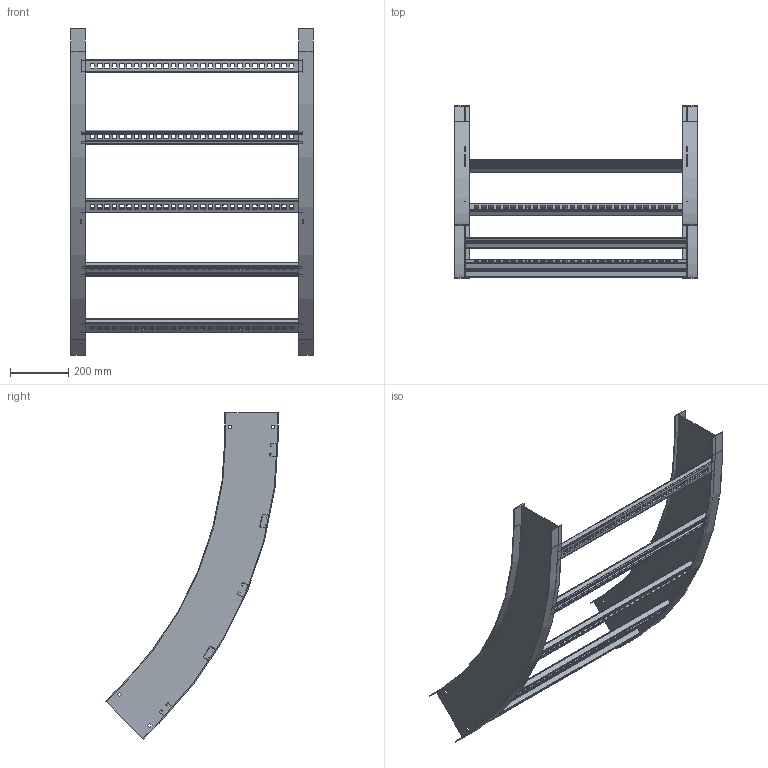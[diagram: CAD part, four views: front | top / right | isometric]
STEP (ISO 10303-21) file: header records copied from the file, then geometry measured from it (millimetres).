
FILE_DESCRIPTION((''),'2;1');
FILE_NAME('AHF730LVI4548_ASM','2010-01-28T',('erouzier'),(''),'PRO/ENGINEER BY PARAMETRIC TECHNOLOGY CORPORATION, 2008510','PRO/ENGINEER BY PARAMETRIC TECHNOLOGY CORPORATION, 2008510','');
FILE_SCHEMA(('CONFIG_CONTROL_DESIGN'));
Length unit declared in the file: inch
Products named in the file (3): CDS001658_7_45_48; CDS002159L30-P; AHF730LVI4548_ASM
Assembly tree (7 placements, depth 2):
  AHF730LVI4548_ASM
    CDS001658_7_45_48  x2
    CDS002159L30-P  x5
Bounding box: 834.64 x 594.87 x 1122.22 mm (x, y, z)
Volume: 2229244.6 mm3; surface area: 2180264 mm2
Topology: 7 solids, 7 shells, 1354 faces, 4020 edges, 2680 vertices
Faces by surface type: plane 727, cylinder 627
Entity records: 10200 total; most frequent: CARTESIAN_POINT 1766, ORIENTED_EDGE 1752, DIRECTION 1746, EDGE_CURVE 876, VECTOR 618, LINE 618, VERTEX_POINT 584, AXIS2_PLACEMENT_3D 564
